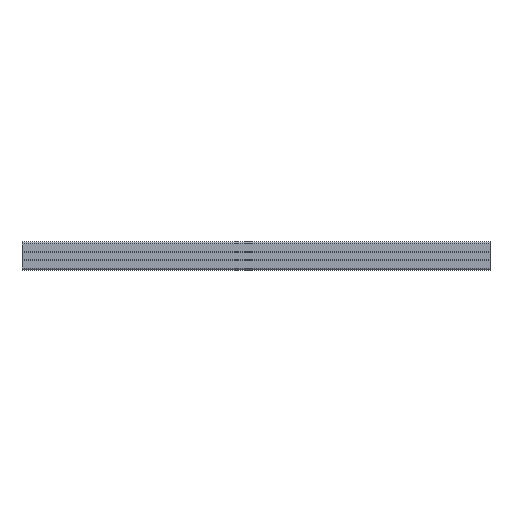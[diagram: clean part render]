
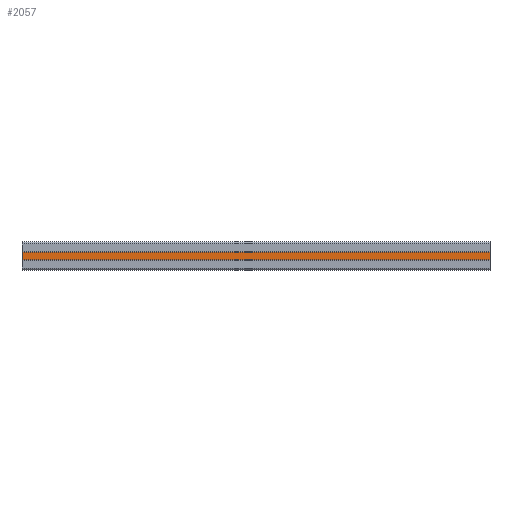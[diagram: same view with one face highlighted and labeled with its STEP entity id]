
A CAD part, front view. The second image highlights one B-rep face of the part: STEP entity #2057.
In plain terms, the highlighted free-form (B-spline) face has degree [1, 1] with [2, 2] control points.
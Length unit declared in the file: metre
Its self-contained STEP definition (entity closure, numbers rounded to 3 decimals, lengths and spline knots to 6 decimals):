
#30=B_SPLINE_SURFACE_WITH_KNOTS('',1,1,((#3108,#3109),(#3110,#3111)),
 .PLANE_SURF.,.F.,.F.,.F.,(2,2),(2,2),(0.,1.),(0.,1.),.UNSPECIFIED.);
#135=LINE('',#3105,#335);
#136=LINE('',#3112,#336);
#137=LINE('',#3114,#337);
#138=LINE('',#3116,#338);
#335=VECTOR('',#2406,1.);
#336=VECTOR('',#2409,1.);
#337=VECTOR('',#2410,1.);
#338=VECTOR('',#2411,1.);
#610=ORIENTED_EDGE('',*,*,#1208,.T.);
#611=ORIENTED_EDGE('',*,*,#1210,.F.);
#612=ORIENTED_EDGE('',*,*,#1211,.F.);
#613=ORIENTED_EDGE('',*,*,#1212,.T.);
#1208=EDGE_CURVE('',#1491,#1490,#135,.T.);
#1210=EDGE_CURVE('',#1492,#1490,#136,.T.);
#1211=EDGE_CURVE('',#1493,#1492,#137,.T.);
#1212=EDGE_CURVE('',#1493,#1491,#138,.T.);
#1490=VERTEX_POINT('',#3104);
#1491=VERTEX_POINT('',#3106);
#1492=VERTEX_POINT('',#3113);
#1493=VERTEX_POINT('',#3115);
#1785=EDGE_LOOP('',(#610,#611,#612,#613));
#1893=FACE_BOUND('',#1785,.T.);
#2057=ADVANCED_FACE('',(#1893),#30,.T.);
#2406=DIRECTION('',(1.,0.,0.));
#2409=DIRECTION('',(0.,0.,-1.));
#2410=DIRECTION('',(1.,0.,0.));
#2411=DIRECTION('',(0.,0.,-1.));
#3104=CARTESIAN_POINT('',(0.271279,-0.0038,0.036561));
#3105=CARTESIAN_POINT('',(-0.058721,-0.0038,0.036561));
#3106=CARTESIAN_POINT('',(-0.058721,-0.0038,0.036561));
#3108=CARTESIAN_POINT('',(-0.075221,-0.0038,0.041871));
#3109=CARTESIAN_POINT('',(0.287779,-0.0038,0.041871));
#3110=CARTESIAN_POINT('',(-0.075221,-0.0038,0.036308));
#3111=CARTESIAN_POINT('',(0.287779,-0.0038,0.036308));
#3112=CARTESIAN_POINT('',(0.271279,-0.0038,0.039089));
#3113=CARTESIAN_POINT('',(0.271279,-0.0038,0.041618));
#3114=CARTESIAN_POINT('',(-0.058721,-0.0038,0.041618));
#3115=CARTESIAN_POINT('',(-0.058721,-0.0038,0.041618));
#3116=CARTESIAN_POINT('',(-0.058721,-0.0038,0.039089));
